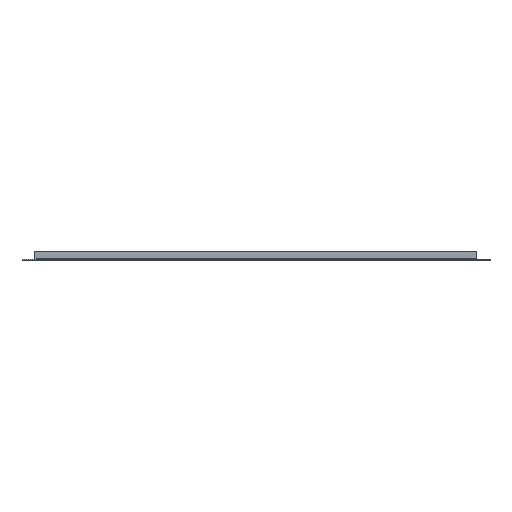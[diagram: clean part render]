
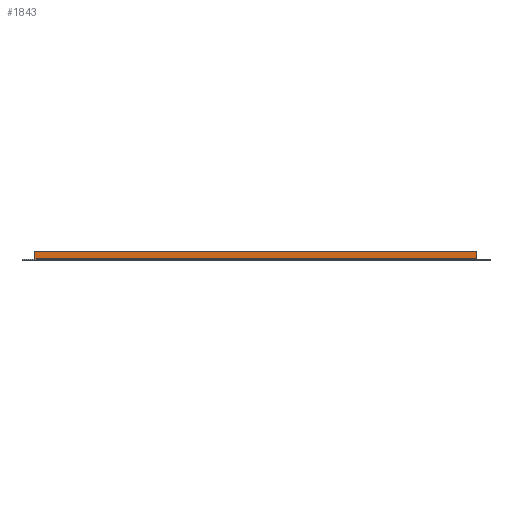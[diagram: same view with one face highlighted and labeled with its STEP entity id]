
A CAD part, left-side view. The second image highlights one B-rep face of the part: STEP entity #1843.
In plain terms, the highlighted planar face has unit normal (-1, 0, 0).
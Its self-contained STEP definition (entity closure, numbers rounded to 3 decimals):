
#1688 = VERTEX_POINT('',#1689);
#1689 = CARTESIAN_POINT('',(-825.,510.,3.1));
#1728 = VERTEX_POINT('',#1729);
#1729 = CARTESIAN_POINT('',(-825.,-510.,3.1));
#1753 = EDGE_CURVE('',#1728,#1688,#1754,.T.);
#1754 = LINE('',#1755,#1756);
#1755 = CARTESIAN_POINT('',(-825.,-510.,3.1));
#1756 = VECTOR('',#1757,1.);
#1757 = DIRECTION('',(0.,1.,0.));
#1795 = VERTEX_POINT('',#1796);
#1796 = CARTESIAN_POINT('',(-825.,-510.,20.));
#1802 = EDGE_CURVE('',#1728,#1795,#1803,.T.);
#1803 = LINE('',#1804,#1805);
#1804 = CARTESIAN_POINT('',(-825.,-510.,20.));
#1805 = VECTOR('',#1806,1.);
#1806 = DIRECTION('',(-0.,-0.,1.));
#1817 = EDGE_CURVE('',#1818,#1688,#1820,.T.);
#1818 = VERTEX_POINT('',#1819);
#1819 = CARTESIAN_POINT('',(-825.,510.,20.));
#1820 = LINE('',#1821,#1822);
#1821 = CARTESIAN_POINT('',(-825.,510.,2.5));
#1822 = VECTOR('',#1823,1.);
#1823 = DIRECTION('',(-0.,-0.,-1.));
#1843 = ADVANCED_FACE('',(#1844),#1855,.F.);
#1844 = FACE_BOUND('',#1845,.T.);
#1845 = EDGE_LOOP('',(#1846,#1847,#1848,#1854));
#1846 = ORIENTED_EDGE('',*,*,#1753,.F.);
#1847 = ORIENTED_EDGE('',*,*,#1802,.T.);
#1848 = ORIENTED_EDGE('',*,*,#1849,.T.);
#1849 = EDGE_CURVE('',#1795,#1818,#1850,.T.);
#1850 = LINE('',#1851,#1852);
#1851 = CARTESIAN_POINT('',(-825.,510.,20.));
#1852 = VECTOR('',#1853,1.);
#1853 = DIRECTION('',(0.,1.,-0.));
#1854 = ORIENTED_EDGE('',*,*,#1817,.T.);
#1855 = PLANE('',#1856);
#1856 = AXIS2_PLACEMENT_3D('',#1857,#1858,#1859);
#1857 = CARTESIAN_POINT('',(-825.,-510.,2.5));
#1858 = DIRECTION('',(1.,0.,0.));
#1859 = DIRECTION('',(0.,1.,0.));
